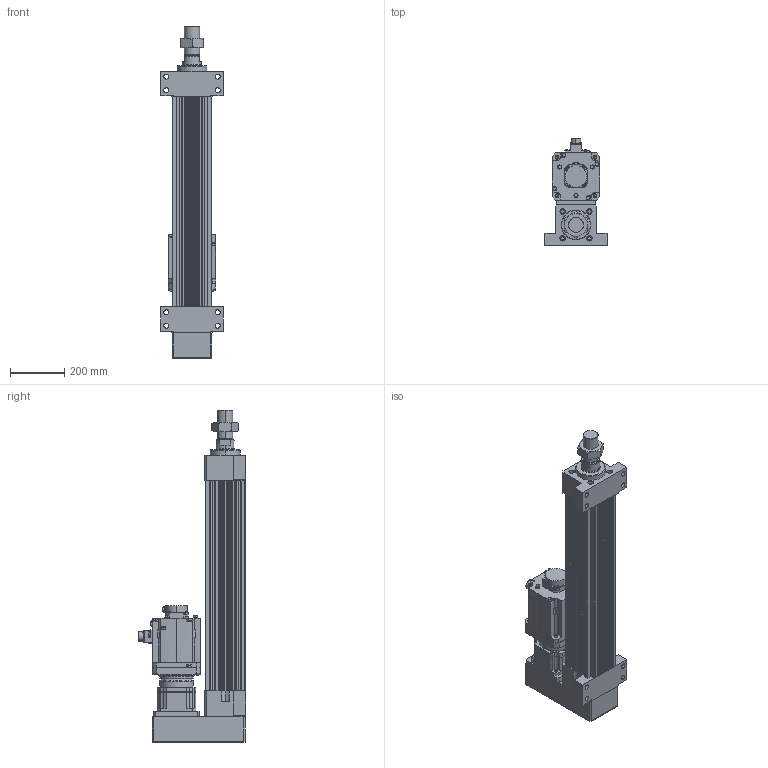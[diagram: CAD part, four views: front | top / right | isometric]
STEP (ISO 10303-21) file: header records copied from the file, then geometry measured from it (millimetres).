
FILE_DESCRIPTION (( 'STEP AP203' ), '1' );
FILE_NAME ('HES150NS(HS)-P500-W050G00-M-FFB.STEP', '2026-06-10T06:37:39', ( 'tms' ), ( '' ), 'SwSTEP 2.0', 'SolidWorks 2013', '' );
FILE_SCHEMA (( 'CONFIG_CONTROL_DESIGN' ));
Length unit declared in the file: millimetre
Products named in the file (9): HG-SR502B; AB1423; HES150-P-G142; HES150NS(HS)-P500-W050G00-M-FFB; HES150-FFB-500; AB1421; M56X2.0P; HES150-M-ROD-500; AB1422
Assembly tree (8 placements, depth 2):
  HES150NS(HS)-P500-W050G00-M-FFB
    HES150-FFB-500
    HES150-M-ROD-500
    M56X2.0P
    HES150-P-G142
    HG-SR502B
    AB1421
    AB1422
    AB1423
Bounding box: 230 x 395.85 x 1226 mm (x, y, z)
Volume: 21228444.3 mm3; surface area: 2183647.4 mm2
Topology: 5 solids, 19 shells, 1502 faces, 3922 edges, 2558 vertices
Faces by surface type: cylinder 698, plane 590, cone 132, bspline 76, torus 6
Entity records: 55282 total; most frequent: CARTESIAN_POINT 16792, DIRECTION 8058, ORIENTED_EDGE 7770, EDGE_CURVE 3907, AXIS2_PLACEMENT_3D 3049, VERTEX_POINT 2558, LINE 1960, VECTOR 1960
